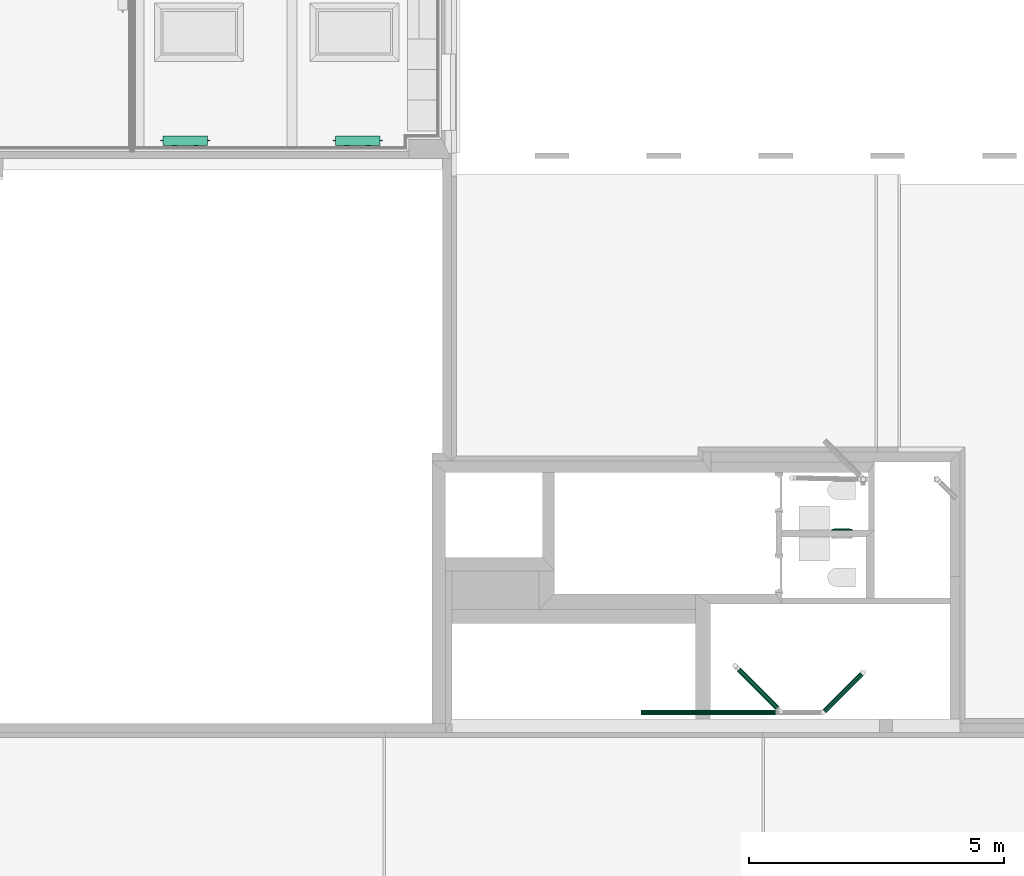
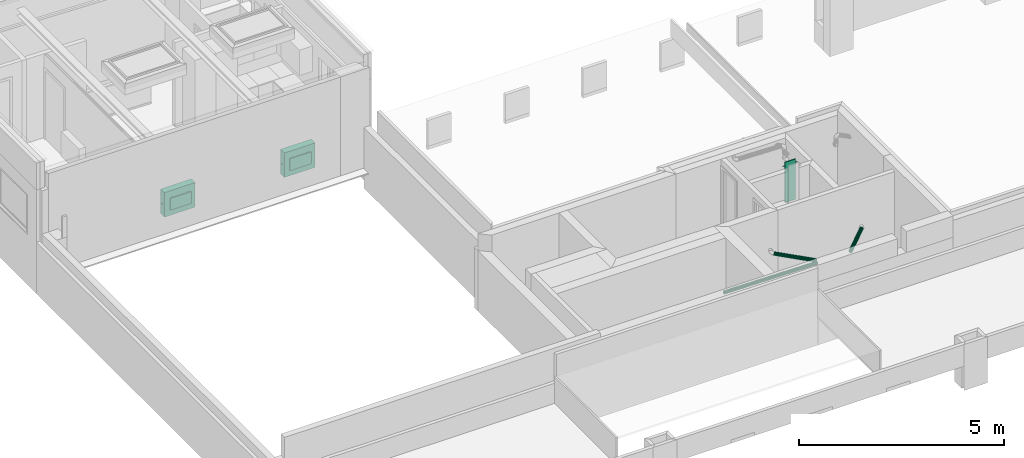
# One storey, part 12 of 22: 3 flow segments, 3 flow terminals.
"""IFC2X3 building model written with IfcOpenShell, lengths in metres."""

from ifc_helpers import new_model, entity, si_unit, converted_unit, derived_unit, money_unit, direction, frame, origin_with_axes, place, context, subcontext, project, spatial, open_shell, faceted_brep, surface_model, material, type_object, element, save


model = new_model("IFC2X3")

# Units and contexts
model_context = context("Model", 3, precision=1e-05, world=origin_with_axes(), true_north=direction((0.0, 1.0)))
body_context = subcontext(model_context, "Body", "Model", "MODEL_VIEW", scale=1.0)
ifc_project = project(units=[si_unit("LENGTHUNIT", "METRE"), si_unit("AREAUNIT", "SQUARE_METRE"), si_unit("VOLUMEUNIT", "CUBIC_METRE"), si_unit("ABSORBEDDOSEUNIT", "GRAY"), si_unit("AMOUNTOFSUBSTANCEUNIT", "MOLE"), si_unit("DOSEEQUIVALENTUNIT", "SIEVERT"), si_unit("ELECTRICCAPACITANCEUNIT", "FARAD"), si_unit("ELECTRICCHARGEUNIT", "COULOMB"), si_unit("ELECTRICCONDUCTANCEUNIT", "SIEMENS"), si_unit("ELECTRICCURRENTUNIT", "AMPERE"), si_unit("ELECTRICRESISTANCEUNIT", "OHM"), si_unit("ELECTRICVOLTAGEUNIT", "VOLT"), si_unit("ENERGYUNIT", "JOULE"), si_unit("FORCEUNIT", "NEWTON"), si_unit("FREQUENCYUNIT", "HERTZ"), si_unit("ILLUMINANCEUNIT", "LUX"), si_unit("INDUCTANCEUNIT", "HENRY"), si_unit("LUMINOUSFLUXUNIT", "LUMEN"), si_unit("LUMINOUSINTENSITYUNIT", "CANDELA"), si_unit("MAGNETICFLUXDENSITYUNIT", "TESLA"), si_unit("MAGNETICFLUXUNIT", "WEBER"), si_unit("MASSUNIT", "GRAM"), converted_unit("PLANEANGLEUNIT", "degree", entity("IfcReal", 0.0174532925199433), si_unit("PLANEANGLEUNIT", "RADIAN"), dimensions=[0, 0, 0, 0, 0, 0, 0]), si_unit("POWERUNIT", "WATT"), si_unit("PRESSUREUNIT", "PASCAL"), si_unit("RADIOACTIVITYUNIT", "BECQUEREL"), si_unit("SOLIDANGLEUNIT", "STERADIAN"), si_unit("THERMODYNAMICTEMPERATUREUNIT", "KELVIN"), si_unit("TIMEUNIT", "SECOND"), derived_unit("ACCELERATIONUNIT", [(si_unit("LENGTHUNIT", "METRE"), 1), (si_unit("TIMEUNIT", "SECOND"), -2)]), derived_unit("ANGULARVELOCITYUNIT", [(converted_unit("PLANEANGLEUNIT", "degree", entity("IfcReal", 0.0174532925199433), si_unit("PLANEANGLEUNIT", "RADIAN"), dimensions=[0, 0, 0, 0, 0, 0, 0]), 1), (si_unit("TIMEUNIT", "SECOND"), -1)]), derived_unit("CURVATUREUNIT", [(converted_unit("PLANEANGLEUNIT", "degree", entity("IfcReal", 0.0174532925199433), si_unit("PLANEANGLEUNIT", "RADIAN"), dimensions=[0, 0, 0, 0, 0, 0, 0]), 1), (si_unit("LENGTHUNIT", "METRE"), -1)]), derived_unit("DYNAMICVISCOSITYUNIT", [(si_unit("PRESSUREUNIT", "PASCAL"), 1), (si_unit("TIMEUNIT", "SECOND"), 1)]), derived_unit("HEATFLUXDENSITYUNIT", [(si_unit("POWERUNIT", "WATT"), 1), (si_unit("LENGTHUNIT", "METRE"), -2)]), derived_unit("HEATINGVALUEUNIT", [(si_unit("ENERGYUNIT", "JOULE"), 1), (si_unit("MASSUNIT", "GRAM"), -1)]), derived_unit("INTEGERCOUNTRATEUNIT", [(si_unit("TIMEUNIT", "SECOND"), -1)]), derived_unit("IONCONCENTRATIONUNIT", [(si_unit("MASSUNIT", "GRAM"), 1), (si_unit("VOLUMEUNIT", "CUBIC_METRE"), -1)]), derived_unit("ISOTHERMALMOISTURECAPACITYUNIT", [(si_unit("VOLUMEUNIT", "CUBIC_METRE"), 1), (si_unit("MASSUNIT", "GRAM"), -1)]), derived_unit("KINEMATICVISCOSITYUNIT", [(si_unit("AREAUNIT", "SQUARE_METRE"), 1), (si_unit("TIMEUNIT", "SECOND"), -1)]), derived_unit("LINEARFORCEUNIT", [(si_unit("FORCEUNIT", "NEWTON"), 1), (si_unit("LENGTHUNIT", "METRE"), -1)]), derived_unit("LINEARMOMENTUNIT", [(si_unit("FORCEUNIT", "NEWTON"), 1), (si_unit("LENGTHUNIT", "METRE"), -1)]), derived_unit("LINEARSTIFFNESSUNIT", [(si_unit("FORCEUNIT", "NEWTON"), 1), (si_unit("LENGTHUNIT", "METRE"), -1)]), derived_unit("LINEARVELOCITYUNIT", [(si_unit("LENGTHUNIT", "METRE"), 1), (si_unit("TIMEUNIT", "SECOND"), -1)]), derived_unit("LUMINOUSINTENSITYDISTRIBUTIONUNIT", [(si_unit("LUMINOUSINTENSITYUNIT", "CANDELA"), 1), (si_unit("LUMINOUSFLUXUNIT", "LUMEN"), -1)]), derived_unit("MASSDENSITYUNIT", [(si_unit("MASSUNIT", "GRAM"), 1), (si_unit("VOLUMEUNIT", "CUBIC_METRE"), -1)]), derived_unit("MASSFLOWRATEUNIT", [(si_unit("MASSUNIT", "GRAM"), 1), (si_unit("TIMEUNIT", "SECOND"), -1)]), derived_unit("MASSPERLENGTHUNIT", [(si_unit("MASSUNIT", "GRAM"), 1), (si_unit("LENGTHUNIT", "METRE"), -1)]), derived_unit("MODULUSOFELASTICITYUNIT", [(si_unit("FORCEUNIT", "NEWTON"), 1), (si_unit("AREAUNIT", "SQUARE_METRE"), -1)]), derived_unit("MODULUSOFLINEARSUBGRADEREACTIONUNIT", [(si_unit("FORCEUNIT", "NEWTON"), 1), (si_unit("LENGTHUNIT", "METRE"), -2)]), derived_unit("MODULUSOFROTATIONALSUBGRADEREACTIONUNIT", [(si_unit("FORCEUNIT", "NEWTON"), 1), (si_unit("LENGTHUNIT", "METRE"), 1)]), derived_unit("MODULUSOFSUBGRADEREACTIONUNIT", [(si_unit("FORCEUNIT", "NEWTON"), 1), (si_unit("VOLUMEUNIT", "CUBIC_METRE"), -1)]), derived_unit("MOISTUREDIFFUSIVITYUNIT", [(si_unit("VOLUMEUNIT", "CUBIC_METRE"), 1), (si_unit("TIMEUNIT", "SECOND"), -1)]), derived_unit("MOLECULARWEIGHTUNIT", [(si_unit("MASSUNIT", "GRAM"), 1), (si_unit("AMOUNTOFSUBSTANCEUNIT", "MOLE"), -1)]), derived_unit("PLANARFORCEUNIT", [(si_unit("FORCEUNIT", "NEWTON"), 1), (si_unit("LENGTHUNIT", "METRE"), -2)]), derived_unit("ROTATIONALFREQUENCYUNIT", [(si_unit("TIMEUNIT", "SECOND"), -1)]), derived_unit("ROTATIONALMASSUNIT", [(si_unit("MASSUNIT", "GRAM"), 1), (si_unit("LENGTHUNIT", "METRE"), 2)]), derived_unit("ROTATIONALSTIFFNESSUNIT", [(si_unit("FORCEUNIT", "NEWTON"), 1), (si_unit("LENGTHUNIT", "METRE"), 1), (converted_unit("PLANEANGLEUNIT", "degree", entity("IfcReal", 0.0174532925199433), si_unit("PLANEANGLEUNIT", "RADIAN"), dimensions=[0, 0, 0, 0, 0, 0, 0]), -1)]), derived_unit("SECTIONAREAINTEGRALUNIT", [(si_unit("LENGTHUNIT", "METRE"), 5)]), derived_unit("SECTIONMODULUSUNIT", [(si_unit("LENGTHUNIT", "METRE"), 3)]), derived_unit("SHEARMODULUSUNIT", [(si_unit("FORCEUNIT", "NEWTON"), 1), (si_unit("AREAUNIT", "SQUARE_METRE"), -1)]), derived_unit("SOUNDPOWERUNIT", [(si_unit("ENERGYUNIT", "JOULE"), 1), (si_unit("TIMEUNIT", "SECOND"), -1)]), derived_unit("SPECIFICHEATCAPACITYUNIT", [(si_unit("FORCEUNIT", "NEWTON"), 1), (si_unit("MASSUNIT", "GRAM"), -1), (si_unit("THERMODYNAMICTEMPERATUREUNIT", "KELVIN"), -1)]), derived_unit("TEMPERATUREGRADIENTUNIT", [(si_unit("THERMODYNAMICTEMPERATUREUNIT", "KELVIN"), 1), (si_unit("LENGTHUNIT", "METRE"), -1)]), derived_unit("THERMALADMITTANCEUNIT", [(si_unit("POWERUNIT", "WATT"), 1), (si_unit("AREAUNIT", "SQUARE_METRE"), -1), (si_unit("THERMODYNAMICTEMPERATUREUNIT", "KELVIN"), -1)]), derived_unit("THERMALCONDUCTANCEUNIT", [(si_unit("POWERUNIT", "WATT"), 1), (si_unit("LENGTHUNIT", "METRE"), -1), (si_unit("THERMODYNAMICTEMPERATUREUNIT", "KELVIN"), -1)]), derived_unit("THERMALEXPANSIONCOEFFICIENTUNIT", [(si_unit("THERMODYNAMICTEMPERATUREUNIT", "KELVIN"), -1)]), derived_unit("THERMALRESISTANCEUNIT", [(si_unit("AREAUNIT", "SQUARE_METRE"), 1), (si_unit("POWERUNIT", "WATT"), -1)]), derived_unit("THERMALTRANSMITTANCEUNIT", [(si_unit("POWERUNIT", "WATT"), 1), (si_unit("AREAUNIT", "SQUARE_METRE"), -1), (si_unit("THERMODYNAMICTEMPERATUREUNIT", "KELVIN"), -1)]), derived_unit("TORQUEUNIT", [(si_unit("FORCEUNIT", "NEWTON"), 1), (si_unit("LENGTHUNIT", "METRE"), 1)]), derived_unit("VAPORPERMEABILITYUNIT", [(si_unit("MASSUNIT", "GRAM"), 1), (si_unit("TIMEUNIT", "SECOND"), -1)]), derived_unit("VOLUMETRICFLOWRATEUNIT", [(si_unit("VOLUMEUNIT", "CUBIC_METRE"), 1), (si_unit("TIMEUNIT", "SECOND"), -1)]), derived_unit("WARPINGCONSTANTUNIT", [(si_unit("LENGTHUNIT", "METRE"), 6)]), derived_unit("WARPINGMOMENTUNIT", [(si_unit("FORCEUNIT", "NEWTON"), 1), (si_unit("LENGTHUNIT", "METRE"), 2)]), money_unit("GBP")], contexts=[model_context])

# Site, building, storey, space
site_placement = place(None, origin_with_axes())
site = spatial("IfcSite", under=ifc_project, at=site_placement, Name="Site", CompositionType="ELEMENT")
building_placement = place(site_placement, origin_with_axes())
building = spatial("IfcBuilding", under=site, at=building_placement, Name="Building01", CompositionType="ELEMENT")
storey_placement = place(building_placement, frame((0.0, 0.0, 2.6), z_axis=(0.0, 0.0, 1.0), x_axis=(1.0, 0.0, 0.0)))
storey = spatial("IfcBuildingStorey", under=building, at=storey_placement, Name="MF", CompositionType="ELEMENT", Elevation=2.6)
space_1_placement = place(storey_placement, frame((14.421434, 6.076984, 0.0), z_axis=(0.0, 0.0, 1.0), x_axis=(0.0, -1.0, 0.0)))
space_1 = spatial("IfcSpace", under=storey, at=space_1_placement, Name="storage", CompositionType="ELEMENT", InteriorOrExteriorSpace="NOTDEFINED")

# Flow segments
ifc_material_1 = material(Name="M_BSUK_ColdWater")
pipe_segment_type = type_object("IfcPipeSegmentType", Name="M-BmpStraightpipe-DefaultPipe", PredefinedType="RIGIDSEGMENT")
placement = place(building_placement, origin_with_axes())
flow_segment_1_placement = place(placement, frame((13.058928, 3.948962, 4.699324), z_axis=(0.01249902, 0.0, 0.99992188), x_axis=(0.99992188, 0.0, -0.01249902)))
element("IfcFlowSegment", 1, at=flow_segment_1_placement, inside=space_1, type_object=pipe_segment_type, material=ifc_material_1, Name="M-BmpStraightpipe-DefaultPipe", ObjectType="M-BmpStraightpipe-DefaultPipe", context=body_context, shape_type="Brep", body=[
    faceted_brep([(2.632821, 0.0, -0.05), (0.0, 0.0, -0.05), (0.0, 0.019134, -0.046194), (2.632821, 0.019134, -0.046194), (0.0, 0.035355, -0.035355), (2.632821, 0.035355, -0.035355), (0.0, 0.046194, -0.019134), (2.632821, 0.046194, -0.019134), (0.0, 0.05, 0.0), (2.632821, 0.05, 0.0), (0.0, 0.046194, 0.019134), (2.632821, 0.046194, 0.019134), (0.0, 0.035355, 0.035355), (2.632821, 0.035355, 0.035355), (0.0, 0.019134, 0.046194), (2.632821, 0.019134, 0.046194), (0.0, 0.0, 0.05), (2.632821, 0.0, 0.05), (0.0, -0.019134, 0.046194), (2.632821, -0.019134, 0.046194), (0.0, -0.035355, 0.035355), (2.632821, -0.035355, 0.035355), (0.0, -0.046194, 0.019134), (2.632821, -0.046194, 0.019134), (0.0, -0.05, 0.0), (2.632821, -0.05, 0.0), (0.0, -0.046194, -0.019134), (2.632821, -0.046194, -0.019134), (0.0, -0.035355, -0.035355), (2.632821, -0.035355, -0.035355), (0.0, -0.019134, -0.046194), (2.632821, -0.019134, -0.046194)], [[[0, 1, 2, 3]], [[3, 2, 4, 5]], [[5, 4, 6, 7]], [[7, 6, 8, 9]], [[9, 8, 10, 11]], [[11, 10, 12, 13]], [[13, 12, 14, 15]], [[15, 14, 16, 17]], [[17, 16, 18, 19]], [[19, 18, 20, 21]], [[21, 20, 22, 23]], [[23, 22, 24, 25]], [[25, 24, 26, 27]], [[27, 26, 28, 29]], [[29, 28, 30, 31]], [[31, 30, 1, 0]]]),
])
flow_segment_2_placement = place(placement, frame((16.650088, 3.978246, 4.654283), z_axis=(0.00883814, 0.00883814, 0.99992188), x_axis=(0.70705154, 0.70705154, -0.01249902)))
element("IfcFlowSegment", 2, at=flow_segment_2_placement, inside=space_1, type_object=pipe_segment_type, material=ifc_material_1, Name="M-BmpStraightpipe-DefaultPipe", ObjectType="M-BmpStraightpipe-DefaultPipe", context=body_context, shape_type="Brep", body=[
    faceted_brep([(1.02766, 0.0, -0.05), (0.0, 0.0, -0.05), (0.0, 0.019134, -0.046194), (1.02766, 0.019134, -0.046194), (0.0, 0.035355, -0.035355), (1.02766, 0.035355, -0.035355), (0.0, 0.046194, -0.019134), (1.02766, 0.046194, -0.019134), (0.0, 0.05, 0.0), (1.02766, 0.05, 0.0), (0.0, 0.046194, 0.019134), (1.02766, 0.046194, 0.019134), (0.0, 0.035355, 0.035355), (1.02766, 0.035355, 0.035355), (0.0, 0.019134, 0.046194), (1.02766, 0.019134, 0.046194), (0.0, 0.0, 0.05), (1.02766, 0.0, 0.05), (0.0, -0.019134, 0.046194), (1.02766, -0.019134, 0.046194), (0.0, -0.035355, 0.035355), (1.02766, -0.035355, 0.035355), (0.0, -0.046194, 0.019134), (1.02766, -0.046194, 0.019134), (0.0, -0.05, 0.0), (1.02766, -0.05, 0.0), (0.0, -0.046194, -0.019134), (1.02766, -0.046194, -0.019134), (0.0, -0.035355, -0.035355), (1.02766, -0.035355, -0.035355), (0.0, -0.019134, -0.046194), (1.02766, -0.019134, -0.046194)], [[[0, 1, 2, 3]], [[3, 2, 4, 5]], [[5, 4, 6, 7]], [[7, 6, 8, 9]], [[9, 8, 10, 11]], [[11, 10, 12, 13]], [[13, 12, 14, 15]], [[15, 14, 16, 17]], [[17, 16, 18, 19]], [[19, 18, 20, 21]], [[21, 20, 22, 23]], [[23, 22, 24, 25]], [[25, 24, 26, 27]], [[27, 26, 28, 29]], [[29, 28, 30, 31]], [[31, 30, 1, 0]]]),
])
flow_segment_3_placement = place(placement, frame((14.969827, 4.796648, 4.678882), z_axis=(0.00883814, -0.00883814, 0.99992188), x_axis=(0.70705155, -0.70705154, -0.01249902)))
element("IfcFlowSegment", 3, at=flow_segment_3_placement, inside=space_1, type_object=pipe_segment_type, material=ifc_material_1, Name="M-BmpStraightpipe-DefaultPipe", ObjectType="M-BmpStraightpipe-DefaultPipe", context=body_context, shape_type="Brep", body=[
    faceted_brep([(1.072986, 0.0, -0.05), (0.0, 0.0, -0.05), (0.0, 0.019134, -0.046194), (1.072986, 0.019134, -0.046194), (0.0, 0.035355, -0.035355), (1.072986, 0.035355, -0.035355), (0.0, 0.046194, -0.019134), (1.072986, 0.046194, -0.019134), (0.0, 0.05, 0.0), (1.072986, 0.05, 0.0), (0.0, 0.046194, 0.019134), (1.072986, 0.046194, 0.019134), (0.0, 0.035355, 0.035355), (1.072986, 0.035355, 0.035355), (0.0, 0.019134, 0.046194), (1.072986, 0.019134, 0.046194), (0.0, 0.0, 0.05), (1.072986, 0.0, 0.05), (0.0, -0.019134, 0.046194), (1.072986, -0.019134, 0.046194), (0.0, -0.035355, 0.035355), (1.072986, -0.035355, 0.035355), (0.0, -0.046194, 0.019134), (1.072986, -0.046194, 0.019134), (0.0, -0.05, 0.0), (1.072986, -0.05, 0.0), (0.0, -0.046194, -0.019134), (1.072986, -0.046194, -0.019134), (0.0, -0.035355, -0.035355), (1.072986, -0.035355, -0.035355), (0.0, -0.019134, -0.046194), (1.072986, -0.019134, -0.046194)], [[[0, 1, 2, 3]], [[3, 2, 4, 5]], [[5, 4, 6, 7]], [[7, 6, 8, 9]], [[9, 8, 10, 11]], [[11, 10, 12, 13]], [[13, 12, 14, 15]], [[15, 14, 16, 17]], [[17, 16, 18, 19]], [[19, 18, 20, 21]], [[21, 20, 22, 23]], [[23, 22, 24, 25]], [[25, 24, 26, 27]], [[27, 26, 28, 29]], [[29, 28, 30, 31]], [[31, 30, 1, 0]]]),
])

# Space
space_2_placement = place(storey_placement, frame((3.137414, 15.705689, 0.606989), z_axis=(0.0, 0.0, 1.0), x_axis=(0.0, -1.0, 0.0)))
space_2 = spatial("IfcSpace", under=storey, at=space_2_placement, Name="k/d/l", CompositionType="ELEMENT", InteriorOrExteriorSpace="NOTDEFINED")

# Flow terminals
ifc_material_2 = material(Name="M_BSUK_Ventilation")
space_heater_type_1 = type_object("IfcSpaceHeaterType", Name="M-BmvRadiatorpanel-Panel", PredefinedType="NOTDEFINED")
flow_terminal_1_placement = place(storey_placement, frame((3.702414, 15.14725, 1.25), z_axis=(0.0, 0.0, 1.0), x_axis=(-1.0, 0.0, 0.0)))
element("IfcFlowTerminal", 4, at=flow_terminal_1_placement, inside=space_2, type_object=space_heater_type_1, material=ifc_material_2, Name="M-BmvRadiatorpanel-Panel", ObjectType="M-BmvRadiatorpanel-Panel", context=body_context, shape_type="SurfaceModel", body=[
    surface_model("IfcShellBasedSurfaceModel", [(-0.865, -0.0925, 0.365), (-0.865, 0.0925, 0.365), (0.0, 0.0925, 0.365), (0.0, -0.0925, 0.365), (-0.865, -0.0925, -0.365), (-0.865, 0.0925, -0.365), (0.0, -0.0925, -0.365), (0.0, 0.0925, -0.365), (-0.1325, 0.12025, 0.175), (-0.7325, 0.12025, 0.175), (-0.7325, 0.14525, 0.175), (-0.1325, 0.14525, 0.175), (-0.7325, 0.14525, -0.175), (-0.1325, 0.14525, -0.175), (-0.7325, 0.12025, -0.175), (-0.1325, 0.12025, -0.175), (-0.2225, 0.0925, 0.0775), (-0.2225, 0.12025, 0.0775), (-0.205279, 0.12025, 0.080925), (-0.205279, 0.0925, 0.080925), (-0.19068, 0.12025, 0.09068), (-0.19068, 0.0925, 0.09068), (-0.180925, 0.12025, 0.105279), (-0.180925, 0.0925, 0.105279), (-0.1775, 0.12025, 0.1225), (-0.1775, 0.0925, 0.1225), (-0.180925, 0.12025, 0.139721), (-0.180925, 0.0925, 0.139721), (-0.19068, 0.12025, 0.15432), (-0.19068, 0.0925, 0.15432), (-0.205279, 0.12025, 0.164075), (-0.205279, 0.0925, 0.164075), (-0.2225, 0.12025, 0.1675), (-0.2225, 0.0925, 0.1675), (-0.239721, 0.12025, 0.164075), (-0.239721, 0.0925, 0.164075), (-0.25432, 0.12025, 0.15432), (-0.25432, 0.0925, 0.15432), (-0.264075, 0.12025, 0.139721), (-0.264075, 0.0925, 0.139721), (-0.2675, 0.12025, 0.1225), (-0.2675, 0.0925, 0.1225), (-0.264075, 0.12025, 0.105279), (-0.264075, 0.0925, 0.105279), (-0.25432, 0.12025, 0.09068), (-0.25432, 0.0925, 0.09068), (-0.239721, 0.12025, 0.080925), (-0.239721, 0.0925, 0.080925), (-0.6425, 0.0925, 0.0775), (-0.6425, 0.12025, 0.0775), (-0.625279, 0.12025, 0.080925), (-0.625279, 0.0925, 0.080925), (-0.61068, 0.12025, 0.09068), (-0.61068, 0.0925, 0.09068), (-0.600925, 0.12025, 0.105279), (-0.600925, 0.0925, 0.105279), (-0.5975, 0.12025, 0.1225), (-0.5975, 0.0925, 0.1225), (-0.600925, 0.12025, 0.139721), (-0.600925, 0.0925, 0.139721), (-0.61068, 0.12025, 0.15432), (-0.61068, 0.0925, 0.15432), (-0.625279, 0.12025, 0.164075), (-0.625279, 0.0925, 0.164075), (-0.6425, 0.12025, 0.1675), (-0.6425, 0.0925, 0.1675), (-0.659721, 0.12025, 0.164075), (-0.659721, 0.0925, 0.164075), (-0.67432, 0.12025, 0.15432), (-0.67432, 0.0925, 0.15432), (-0.684075, 0.12025, 0.139721), (-0.684075, 0.0925, 0.139721), (-0.6875, 0.12025, 0.1225), (-0.6875, 0.0925, 0.1225), (-0.684075, 0.12025, 0.105279), (-0.684075, 0.0925, 0.105279), (-0.67432, 0.12025, 0.09068), (-0.67432, 0.0925, 0.09068), (-0.659721, 0.12025, 0.080925), (-0.659721, 0.0925, 0.080925), (0.05, 0.0, -0.0225), (0.0, 0.0, -0.0225), (0.0, 0.004784, -0.021548), (0.05, 0.004784, -0.021548), (0.0, 0.008839, -0.018839), (0.05, 0.008839, -0.018839), (0.0, 0.011548, -0.014784), (0.05, 0.011548, -0.014784), (0.0, 0.0125, -0.01), (0.05, 0.0125, -0.01), (0.0, 0.011548, -0.005216), (0.05, 0.011548, -0.005216), (0.0, 0.008839, -0.001161), (0.05, 0.008839, -0.001161), (0.0, 0.004784, 0.001548), (0.05, 0.004784, 0.001548), (0.0, 0.0, 0.0025), (0.05, 0.0, 0.0025), (0.0, -0.004784, 0.001548), (0.05, -0.004784, 0.001548), (0.0, -0.008839, -0.001161), (0.05, -0.008839, -0.001161), (0.0, -0.011548, -0.005216), (0.05, -0.011548, -0.005216), (0.0, -0.0125, -0.01), (0.05, -0.0125, -0.01), (0.0, -0.011548, -0.014784), (0.05, -0.011548, -0.014784), (0.0, -0.008839, -0.018839), (0.05, -0.008839, -0.018839), (0.0, -0.004784, -0.021548), (0.05, -0.004784, -0.021548), (-0.915, 0.0, 0.2525), (-0.865, 0.0, 0.2525), (-0.865, -0.004784, 0.253452), (-0.915, -0.004784, 0.253452), (-0.865, -0.008839, 0.256161), (-0.915, -0.008839, 0.256161), (-0.865, -0.011548, 0.260216), (-0.915, -0.011548, 0.260216), (-0.865, -0.0125, 0.265), (-0.915, -0.0125, 0.265), (-0.865, -0.011548, 0.269784), (-0.915, -0.011548, 0.269784), (-0.865, -0.008839, 0.273839), (-0.915, -0.008839, 0.273839), (-0.865, -0.004784, 0.276548), (-0.915, -0.004784, 0.276548), (-0.865, 0.0, 0.2775), (-0.915, 0.0, 0.2775), (-0.865, 0.004784, 0.276548), (-0.915, 0.004784, 0.276548), (-0.865, 0.008839, 0.273839), (-0.915, 0.008839, 0.273839), (-0.865, 0.011548, 0.269784), (-0.915, 0.011548, 0.269784), (-0.865, 0.0125, 0.265), (-0.915, 0.0125, 0.265), (-0.865, 0.011548, 0.260216), (-0.915, 0.011548, 0.260216), (-0.865, 0.008839, 0.256161), (-0.915, 0.008839, 0.256161), (-0.865, 0.004784, 0.253452), (-0.915, 0.004784, 0.253452)], [open_shell([[[0, 1, 2, 3]], [[4, 5, 1, 0]], [[6, 7, 5, 4]], [[3, 2, 7, 6]], [[1, 5, 7, 2]], [[3, 6, 4, 0]], [[8, 9, 10, 11]], [[11, 10, 12, 13]], [[13, 12, 14, 15]], [[15, 14, 9, 8]], [[9, 14, 12, 10]], [[11, 13, 15, 8]], [[16, 17, 18, 19]], [[19, 18, 20, 21]], [[21, 20, 22, 23]], [[23, 22, 24, 25]], [[25, 24, 26, 27]], [[27, 26, 28, 29]], [[29, 28, 30, 31]], [[31, 30, 32, 33]], [[33, 32, 34, 35]], [[35, 34, 36, 37]], [[37, 36, 38, 39]], [[39, 38, 40, 41]], [[41, 40, 42, 43]], [[43, 42, 44, 45]], [[45, 44, 46, 47]], [[47, 46, 17, 16]], [[48, 49, 50, 51]], [[51, 50, 52, 53]], [[53, 52, 54, 55]], [[55, 54, 56, 57]], [[57, 56, 58, 59]], [[59, 58, 60, 61]], [[61, 60, 62, 63]], [[63, 62, 64, 65]], [[65, 64, 66, 67]], [[67, 66, 68, 69]], [[69, 68, 70, 71]], [[71, 70, 72, 73]], [[73, 72, 74, 75]], [[75, 74, 76, 77]], [[77, 76, 78, 79]], [[79, 78, 49, 48]], [[80, 81, 82, 83]], [[83, 82, 84, 85]], [[85, 84, 86, 87]], [[87, 86, 88, 89]], [[89, 88, 90, 91]], [[91, 90, 92, 93]], [[93, 92, 94, 95]], [[95, 94, 96, 97]], [[97, 96, 98, 99]], [[99, 98, 100, 101]], [[101, 100, 102, 103]], [[103, 102, 104, 105]], [[105, 104, 106, 107]], [[107, 106, 108, 109]], [[109, 108, 110, 111]], [[111, 110, 81, 80]], [[112, 113, 114, 115]], [[115, 114, 116, 117]], [[117, 116, 118, 119]], [[119, 118, 120, 121]], [[121, 120, 122, 123]], [[123, 122, 124, 125]], [[125, 124, 126, 127]], [[127, 126, 128, 129]], [[129, 128, 130, 131]], [[131, 130, 132, 133]], [[133, 132, 134, 135]], [[135, 134, 136, 137]], [[137, 136, 138, 139]], [[139, 138, 140, 141]], [[141, 140, 142, 143]], [[143, 142, 113, 112]]])]),
])
flow_terminal_2_placement = place(storey_placement, frame((7.079893, 15.14725, 1.25), z_axis=(0.0, 0.0, 1.0), x_axis=(-1.0, 0.0, 0.0)))
element("IfcFlowTerminal", 5, at=flow_terminal_2_placement, inside=space_2, type_object=space_heater_type_1, material=ifc_material_2, Name="M-BmvRadiatorpanel-Panel", ObjectType="M-BmvRadiatorpanel-Panel", context=body_context, shape_type="SurfaceModel", body=[
    surface_model("IfcShellBasedSurfaceModel", [(-0.865, -0.0925, 0.365), (-0.865, 0.0925, 0.365), (0.0, 0.0925, 0.365), (0.0, -0.0925, 0.365), (-0.865, -0.0925, -0.365), (-0.865, 0.0925, -0.365), (0.0, -0.0925, -0.365), (0.0, 0.0925, -0.365), (-0.1325, 0.12025, 0.175), (-0.7325, 0.12025, 0.175), (-0.7325, 0.14525, 0.175), (-0.1325, 0.14525, 0.175), (-0.7325, 0.14525, -0.175), (-0.1325, 0.14525, -0.175), (-0.7325, 0.12025, -0.175), (-0.1325, 0.12025, -0.175), (-0.2225, 0.0925, 0.0775), (-0.2225, 0.12025, 0.0775), (-0.205279, 0.12025, 0.080925), (-0.205279, 0.0925, 0.080925), (-0.19068, 0.12025, 0.09068), (-0.19068, 0.0925, 0.09068), (-0.180925, 0.12025, 0.105279), (-0.180925, 0.0925, 0.105279), (-0.1775, 0.12025, 0.1225), (-0.1775, 0.0925, 0.1225), (-0.180925, 0.12025, 0.139721), (-0.180925, 0.0925, 0.139721), (-0.19068, 0.12025, 0.15432), (-0.19068, 0.0925, 0.15432), (-0.205279, 0.12025, 0.164075), (-0.205279, 0.0925, 0.164075), (-0.2225, 0.12025, 0.1675), (-0.2225, 0.0925, 0.1675), (-0.239721, 0.12025, 0.164075), (-0.239721, 0.0925, 0.164075), (-0.25432, 0.12025, 0.15432), (-0.25432, 0.0925, 0.15432), (-0.264075, 0.12025, 0.139721), (-0.264075, 0.0925, 0.139721), (-0.2675, 0.12025, 0.1225), (-0.2675, 0.0925, 0.1225), (-0.264075, 0.12025, 0.105279), (-0.264075, 0.0925, 0.105279), (-0.25432, 0.12025, 0.09068), (-0.25432, 0.0925, 0.09068), (-0.239721, 0.12025, 0.080925), (-0.239721, 0.0925, 0.080925), (-0.6425, 0.0925, 0.0775), (-0.6425, 0.12025, 0.0775), (-0.625279, 0.12025, 0.080925), (-0.625279, 0.0925, 0.080925), (-0.61068, 0.12025, 0.09068), (-0.61068, 0.0925, 0.09068), (-0.600925, 0.12025, 0.105279), (-0.600925, 0.0925, 0.105279), (-0.5975, 0.12025, 0.1225), (-0.5975, 0.0925, 0.1225), (-0.600925, 0.12025, 0.139721), (-0.600925, 0.0925, 0.139721), (-0.61068, 0.12025, 0.15432), (-0.61068, 0.0925, 0.15432), (-0.625279, 0.12025, 0.164075), (-0.625279, 0.0925, 0.164075), (-0.6425, 0.12025, 0.1675), (-0.6425, 0.0925, 0.1675), (-0.659721, 0.12025, 0.164075), (-0.659721, 0.0925, 0.164075), (-0.67432, 0.12025, 0.15432), (-0.67432, 0.0925, 0.15432), (-0.684075, 0.12025, 0.139721), (-0.684075, 0.0925, 0.139721), (-0.6875, 0.12025, 0.1225), (-0.6875, 0.0925, 0.1225), (-0.684075, 0.12025, 0.105279), (-0.684075, 0.0925, 0.105279), (-0.67432, 0.12025, 0.09068), (-0.67432, 0.0925, 0.09068), (-0.659721, 0.12025, 0.080925), (-0.659721, 0.0925, 0.080925), (0.05, 0.0, -0.0225), (0.0, 0.0, -0.0225), (0.0, 0.004784, -0.021548), (0.05, 0.004784, -0.021548), (0.0, 0.008839, -0.018839), (0.05, 0.008839, -0.018839), (0.0, 0.011548, -0.014784), (0.05, 0.011548, -0.014784), (0.0, 0.0125, -0.01), (0.05, 0.0125, -0.01), (0.0, 0.011548, -0.005216), (0.05, 0.011548, -0.005216), (0.0, 0.008839, -0.001161), (0.05, 0.008839, -0.001161), (0.0, 0.004784, 0.001548), (0.05, 0.004784, 0.001548), (0.0, 0.0, 0.0025), (0.05, 0.0, 0.0025), (0.0, -0.004784, 0.001548), (0.05, -0.004784, 0.001548), (0.0, -0.008839, -0.001161), (0.05, -0.008839, -0.001161), (0.0, -0.011548, -0.005216), (0.05, -0.011548, -0.005216), (0.0, -0.0125, -0.01), (0.05, -0.0125, -0.01), (0.0, -0.011548, -0.014784), (0.05, -0.011548, -0.014784), (0.0, -0.008839, -0.018839), (0.05, -0.008839, -0.018839), (0.0, -0.004784, -0.021548), (0.05, -0.004784, -0.021548), (-0.915, 0.0, 0.2525), (-0.865, 0.0, 0.2525), (-0.865, -0.004784, 0.253452), (-0.915, -0.004784, 0.253452), (-0.865, -0.008839, 0.256161), (-0.915, -0.008839, 0.256161), (-0.865, -0.011548, 0.260216), (-0.915, -0.011548, 0.260216), (-0.865, -0.0125, 0.265), (-0.915, -0.0125, 0.265), (-0.865, -0.011548, 0.269784), (-0.915, -0.011548, 0.269784), (-0.865, -0.008839, 0.273839), (-0.915, -0.008839, 0.273839), (-0.865, -0.004784, 0.276548), (-0.915, -0.004784, 0.276548), (-0.865, 0.0, 0.2775), (-0.915, 0.0, 0.2775), (-0.865, 0.004784, 0.276548), (-0.915, 0.004784, 0.276548), (-0.865, 0.008839, 0.273839), (-0.915, 0.008839, 0.273839), (-0.865, 0.011548, 0.269784), (-0.915, 0.011548, 0.269784), (-0.865, 0.0125, 0.265), (-0.915, 0.0125, 0.265), (-0.865, 0.011548, 0.260216), (-0.915, 0.011548, 0.260216), (-0.865, 0.008839, 0.256161), (-0.915, 0.008839, 0.256161), (-0.865, 0.004784, 0.253452), (-0.915, 0.004784, 0.253452)], [open_shell([[[0, 1, 2, 3]], [[4, 5, 1, 0]], [[6, 7, 5, 4]], [[3, 2, 7, 6]], [[1, 5, 7, 2]], [[3, 6, 4, 0]], [[8, 9, 10, 11]], [[11, 10, 12, 13]], [[13, 12, 14, 15]], [[15, 14, 9, 8]], [[9, 14, 12, 10]], [[11, 13, 15, 8]], [[16, 17, 18, 19]], [[19, 18, 20, 21]], [[21, 20, 22, 23]], [[23, 22, 24, 25]], [[25, 24, 26, 27]], [[27, 26, 28, 29]], [[29, 28, 30, 31]], [[31, 30, 32, 33]], [[33, 32, 34, 35]], [[35, 34, 36, 37]], [[37, 36, 38, 39]], [[39, 38, 40, 41]], [[41, 40, 42, 43]], [[43, 42, 44, 45]], [[45, 44, 46, 47]], [[47, 46, 17, 16]], [[48, 49, 50, 51]], [[51, 50, 52, 53]], [[53, 52, 54, 55]], [[55, 54, 56, 57]], [[57, 56, 58, 59]], [[59, 58, 60, 61]], [[61, 60, 62, 63]], [[63, 62, 64, 65]], [[65, 64, 66, 67]], [[67, 66, 68, 69]], [[69, 68, 70, 71]], [[71, 70, 72, 73]], [[73, 72, 74, 75]], [[75, 74, 76, 77]], [[77, 76, 78, 79]], [[79, 78, 49, 48]], [[80, 81, 82, 83]], [[83, 82, 84, 85]], [[85, 84, 86, 87]], [[87, 86, 88, 89]], [[89, 88, 90, 91]], [[91, 90, 92, 93]], [[93, 92, 94, 95]], [[95, 94, 96, 97]], [[97, 96, 98, 99]], [[99, 98, 100, 101]], [[101, 100, 102, 103]], [[103, 102, 104, 105]], [[105, 104, 106, 107]], [[107, 106, 108, 109]], [[109, 108, 110, 111]], [[111, 110, 81, 80]], [[112, 113, 114, 115]], [[115, 114, 116, 117]], [[117, 116, 118, 119]], [[119, 118, 120, 121]], [[121, 120, 122, 123]], [[123, 122, 124, 125]], [[125, 124, 126, 127]], [[127, 126, 128, 129]], [[129, 128, 130, 131]], [[131, 130, 132, 133]], [[133, 132, 134, 135]], [[135, 134, 136, 137]], [[137, 136, 138, 139]], [[139, 138, 140, 141]], [[141, 140, 142, 143]], [[143, 142, 113, 112]]])]),
])

# Space
space_3_placement = place(storey_placement, frame((15.816265, 6.196984, 0.0), z_axis=(0.0, 0.0, 1.0), x_axis=(1.0, 0.0, 0.0)))
space_3 = spatial("IfcSpace", under=storey, at=space_3_placement, Name="WC", CompositionType="ELEMENT", InteriorOrExteriorSpace="NOTDEFINED")

# Flow terminal
space_heater_type_2 = type_object("IfcSpaceHeaterType", Name="M-BmvRadiator-Column", PredefinedType="NOTDEFINED")
flow_terminal_3_placement = place(storey_placement, frame((16.84523, 7.532419, 1.885), z_axis=(0.0, 0.0, 1.0), x_axis=(-1.0, 0.0, 0.0)))
element("IfcFlowTerminal", 6, at=flow_terminal_3_placement, inside=space_3, type_object=space_heater_type_2, material=ifc_material_2, Name="M-BmvRadiator-Column", ObjectType="M-BmvRadiator-Column", context=body_context, shape_type="SurfaceModel", body=[
    surface_model("IfcShellBasedSurfaceModel", [(0.0, -0.0125, 0.6), (0.0, -0.0125, -0.6), (0.0, 0.0125, -0.6), (0.0, 0.0125, 0.6), (-0.3, -0.0125, 0.6), (-0.3, -0.0125, -0.6), (-0.3, 0.0125, -0.6), (-0.3, 0.0125, 0.6), (-0.06, 0.0125, 0.6), (-0.06, -0.0125, 0.6), (-0.06, -0.0125, -0.6), (-0.06, 0.0125, -0.6), (-0.12, 0.0125, 0.6), (-0.12, -0.0125, 0.6), (-0.12, -0.0125, -0.6), (-0.12, 0.0125, -0.6), (-0.18, 0.0125, 0.6), (-0.18, -0.0125, 0.6), (-0.18, -0.0125, -0.6), (-0.18, 0.0125, -0.6), (-0.24, 0.0125, 0.6), (-0.24, -0.0125, 0.6), (-0.24, -0.0125, -0.6), (-0.24, 0.0125, -0.6), (0.05, 0.0, 0.4825), (0.0, 0.0, 0.4825), (0.0, 0.003827, 0.483261), (0.05, 0.003827, 0.483261), (0.0, 0.007071, 0.485429), (0.05, 0.007071, 0.485429), (0.0, 0.009239, 0.488673), (0.05, 0.009239, 0.488673), (0.0, 0.01, 0.4925), (0.05, 0.01, 0.4925), (0.0, 0.009239, 0.496327), (0.05, 0.009239, 0.496327), (0.0, 0.007071, 0.499571), (0.05, 0.007071, 0.499571), (0.0, 0.003827, 0.501739), (0.05, 0.003827, 0.501739), (0.0, 0.0, 0.5025), (0.05, 0.0, 0.5025), (0.0, -0.003827, 0.501739), (0.05, -0.003827, 0.501739), (0.0, -0.007071, 0.499571), (0.05, -0.007071, 0.499571), (0.0, -0.009239, 0.496327), (0.05, -0.009239, 0.496327), (0.0, -0.01, 0.4925), (0.05, -0.01, 0.4925), (0.0, -0.009239, 0.488673), (0.05, -0.009239, 0.488673), (0.0, -0.007071, 0.485429), (0.05, -0.007071, 0.485429), (0.0, -0.003827, 0.483261), (0.05, -0.003827, 0.483261), (-0.35, 0.0, 0.4884), (-0.3, 0.0, 0.4884), (-0.3, -0.003827, 0.489161), (-0.35, -0.003827, 0.489161), (-0.3, -0.007071, 0.491329), (-0.35, -0.007071, 0.491329), (-0.3, -0.009239, 0.494573), (-0.35, -0.009239, 0.494573), (-0.3, -0.01, 0.4984), (-0.35, -0.01, 0.4984), (-0.3, -0.009239, 0.502227), (-0.35, -0.009239, 0.502227), (-0.3, -0.007071, 0.505471), (-0.35, -0.007071, 0.505471), (-0.3, -0.003827, 0.507639), (-0.35, -0.003827, 0.507639), (-0.3, 0.0, 0.5084), (-0.35, 0.0, 0.5084), (-0.3, 0.003827, 0.507639), (-0.35, 0.003827, 0.507639), (-0.3, 0.007071, 0.505471), (-0.35, 0.007071, 0.505471), (-0.3, 0.009239, 0.502227), (-0.35, 0.009239, 0.502227), (-0.3, 0.01, 0.4984), (-0.35, 0.01, 0.4984), (-0.3, 0.009239, 0.494573), (-0.35, 0.009239, 0.494573), (-0.3, 0.007071, 0.491329), (-0.35, 0.007071, 0.491329), (-0.3, 0.003827, 0.489161), (-0.35, 0.003827, 0.489161)], [open_shell([[[0, 1, 2, 3]], [[4, 5, 6, 7]], [[8, 3, 0, 9]], [[9, 0, 1, 10]], [[10, 1, 2, 11]], [[11, 2, 3, 8]], [[12, 8, 9, 13]], [[13, 9, 10, 14]], [[14, 10, 11, 15]], [[15, 11, 8, 12]], [[16, 12, 13, 17]], [[17, 13, 14, 18]], [[18, 14, 15, 19]], [[19, 15, 12, 16]], [[20, 16, 17, 21]], [[21, 17, 18, 22]], [[22, 18, 19, 23]], [[23, 19, 16, 20]], [[7, 20, 21, 4]], [[4, 21, 22, 5]], [[5, 22, 23, 6]], [[6, 23, 20, 7]], [[24, 25, 26, 27]], [[27, 26, 28, 29]], [[29, 28, 30, 31]], [[31, 30, 32, 33]], [[33, 32, 34, 35]], [[35, 34, 36, 37]], [[37, 36, 38, 39]], [[39, 38, 40, 41]], [[41, 40, 42, 43]], [[43, 42, 44, 45]], [[45, 44, 46, 47]], [[47, 46, 48, 49]], [[49, 48, 50, 51]], [[51, 50, 52, 53]], [[53, 52, 54, 55]], [[55, 54, 25, 24]], [[56, 57, 58, 59]], [[59, 58, 60, 61]], [[61, 60, 62, 63]], [[63, 62, 64, 65]], [[65, 64, 66, 67]], [[67, 66, 68, 69]], [[69, 68, 70, 71]], [[71, 70, 72, 73]], [[73, 72, 74, 75]], [[75, 74, 76, 77]], [[77, 76, 78, 79]], [[79, 78, 80, 81]], [[81, 80, 82, 83]], [[83, 82, 84, 85]], [[85, 84, 86, 87]], [[87, 86, 57, 56]]])]),
])

save(model, "model.ifc")
